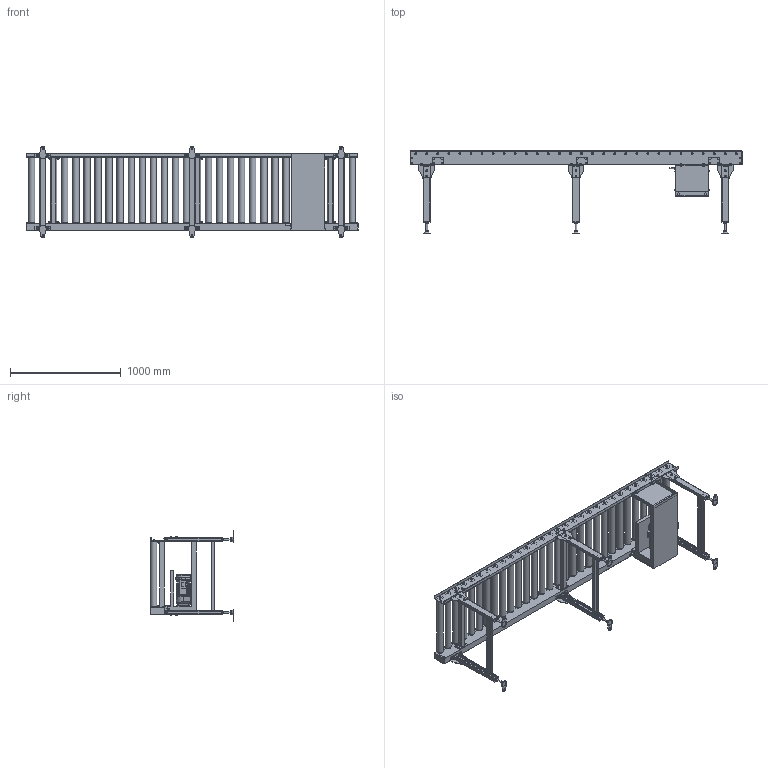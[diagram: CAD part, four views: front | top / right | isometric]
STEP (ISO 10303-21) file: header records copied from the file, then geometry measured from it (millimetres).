
FILE_DESCRIPTION( (''), '2;1');
FILE_NAME ('WEB-FCC2H-57-3-040-630-100-300-R-20S.stp','2026-03-19T10:10:38',(''),(''),'spGate 20.6.2 (****-****-****-****)','','');
FILE_SCHEMA (('AUTOMOTIVE_DESIGN'));
Length unit declared in the file: millimetre
Products named in the file (113): WEB-FCC2H-57-3-040-630-100-300-R-20S; TEMP_X_T-prt0; TEMP_X_T-prt1; TEMP_X_T-prt2; TEMP_X_T-prt3; TEMP_X_T-prt4; TEMP_X_T-prt5; TEMP_X_T-prt6; TEMP_X_T-prt7; TEMP_X_T-prt8; TEMP_X_T-prt9; TEMP_X_T-prt10; TEMP_X_T-prt11; TEMP_X_T-prt12; TEMP_X_T-prt13; TEMP_X_T-prt14; TEMP_X_T-prt15; TEMP_X_T-prt16; TEMP_X_T-prt17; TEMP_X_T-prt18; TEMP_X_T-prt19; TEMP_X_T-prt20; TEMP_X_T-prt21; TEMP_X_T-prt22; TEMP_X_T-prt23; TEMP_X_T-prt24; TEMP_X_T-prt25; TEMP_X_T-prt26; TEMP_X_T-prt27; TEMP_X_T-prt28; TEMP_X_T-prt29; TEMP_X_T-prt30; TEMP_X_T-prt31; TEMP_X_T-prt32; TEMP_X_T-prt33; TEMP_X_T-prt34; TEMP_X_T-prt35; TEMP_X_T-prt36; TEMP_X_T-prt37; TEMP_X_T-prt38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
Assembly tree (112 placements, depth 2):
  WEB-FCC2H-57-3-040-630-100-300-R-20S
    TEMP_X_T-prt0
    TEMP_X_T-prt1
    TEMP_X_T-prt2
    TEMP_X_T-prt3
    TEMP_X_T-prt4
    TEMP_X_T-prt5
    TEMP_X_T-prt6
    TEMP_X_T-prt7
    TEMP_X_T-prt8
    TEMP_X_T-prt9
    TEMP_X_T-prt10
    TEMP_X_T-prt11
    TEMP_X_T-prt12
    TEMP_X_T-prt13
    TEMP_X_T-prt14
    TEMP_X_T-prt15
    TEMP_X_T-prt16
    TEMP_X_T-prt17
    TEMP_X_T-prt18
    TEMP_X_T-prt19
    TEMP_X_T-prt20
    TEMP_X_T-prt21
    TEMP_X_T-prt22
    TEMP_X_T-prt23
    TEMP_X_T-prt24
    TEMP_X_T-prt25
    TEMP_X_T-prt26
    TEMP_X_T-prt27
    TEMP_X_T-prt28
    TEMP_X_T-prt29
    TEMP_X_T-prt30
    TEMP_X_T-prt31
    TEMP_X_T-prt32
    TEMP_X_T-prt33
    TEMP_X_T-prt34
    TEMP_X_T-prt35
    TEMP_X_T-prt36
    TEMP_X_T-prt37
    TEMP_X_T-prt38
    TEMP_X_T-prt39
    TEMP_X_T-prt40
    TEMP_X_T-prt41
    TEMP_X_T-prt42
    TEMP_X_T-prt43
    TEMP_X_T-prt44
    TEMP_X_T-prt45
    TEMP_X_T-prt46
    TEMP_X_T-prt47
    TEMP_X_T-prt48
    TEMP_X_T-prt49
    TEMP_X_T-prt50
    TEMP_X_T-prt51
    TEMP_X_T-prt52
    TEMP_X_T-prt53
    TEMP_X_T-prt54
    TEMP_X_T-prt55
    TEMP_X_T-prt56
    TEMP_X_T-prt57
    TEMP_X_T-prt58
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Bounding box: 3002.4 x 750 x 824 mm (x, y, z)
Volume: 95329259.3 mm3; surface area: 10131174.4 mm2
Topology: 112 solids, 112 shells, 3506 faces, 8911 edges, 5904 vertices
Faces by surface type: plane 2574, cylinder 825, bspline 83, sphere 24
Full cylindrical faces by diameter (mm): 4 x8, 5 x24, 6 x1, 8 x12, 8.5 x15, 9 x12, 9.2 x4, 9.4 x24, 10 x58, 10.5 x14, 11 x28, 12 x38, 13 x14, 15 x1, 15.4 x6, 16 x12, 17 x42, 18 x6, 21 x14, 24 x1, 25 x4, 28 x1, 30 x2, 47 x30, 56 x1, 57 x30, 113.2 x1, 125 x1
Entity records: 183842 total; most frequent: CARTESIAN_POINT 23049, DIRECTION 18109, ORIENTED_EDGE 17820, COLOUR_RGB 12528, PRESENTATION_STYLE_ASSIGNMENT 12528, STYLED_ITEM 12528, EDGE_CURVE 8910, DRAUGHTING_PRE_DEFINED_CURVE_FONT 8910
